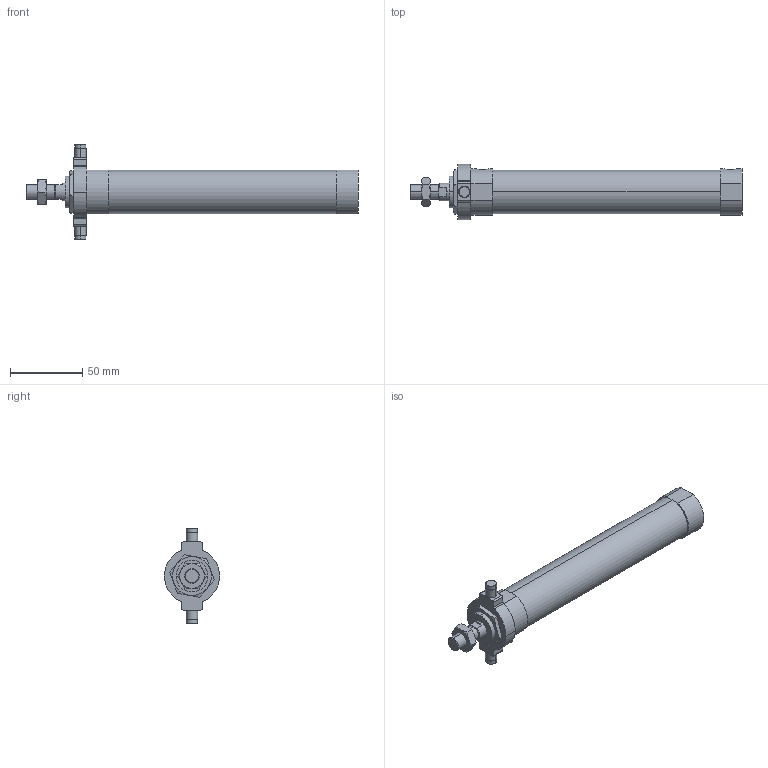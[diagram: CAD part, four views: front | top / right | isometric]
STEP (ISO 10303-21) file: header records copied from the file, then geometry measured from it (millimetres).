
FILE_DESCRIPTION (( 'STEP AP203' ), '1' );
FILE_NAME ('JGND2-25-125-T.STEP', '2016-08-04T02:41:54', ( '' ), ( '' ), 'SwSTEP 2.0', 'SolidWorks 2014', '' );
FILE_SCHEMA (( 'CONFIG_CONTROL_DESIGN' ));
Length unit declared in the file: millimetre
Products named in the file (5): JGND2-25-125-T; J#2-25-125(P); J#2-25-T
Assembly tree (4 placements, depth 2):
  JGND2-25-125-T
    J#2-25-125(P)
    (unnamed)
    J#2-25-T
    (unnamed)
Bounding box: 229 x 38 x 66 mm (x, y, z)
Volume: 150666 mm3; surface area: 28709.6 mm2
Topology: 4 solids, 4 shells, 128 faces, 291 edges, 174 vertices
Faces by surface type: plane 45, cylinder 43, torus 24, cone 16
Entity records: 4380 total; most frequent: CARTESIAN_POINT 1020, DIRECTION 619, ORIENTED_EDGE 574, EDGE_CURVE 287, AXIS2_PLACEMENT_3D 253, VERTEX_POINT 174, EDGE_LOOP 141, FACE_OUTER_BOUND 128
